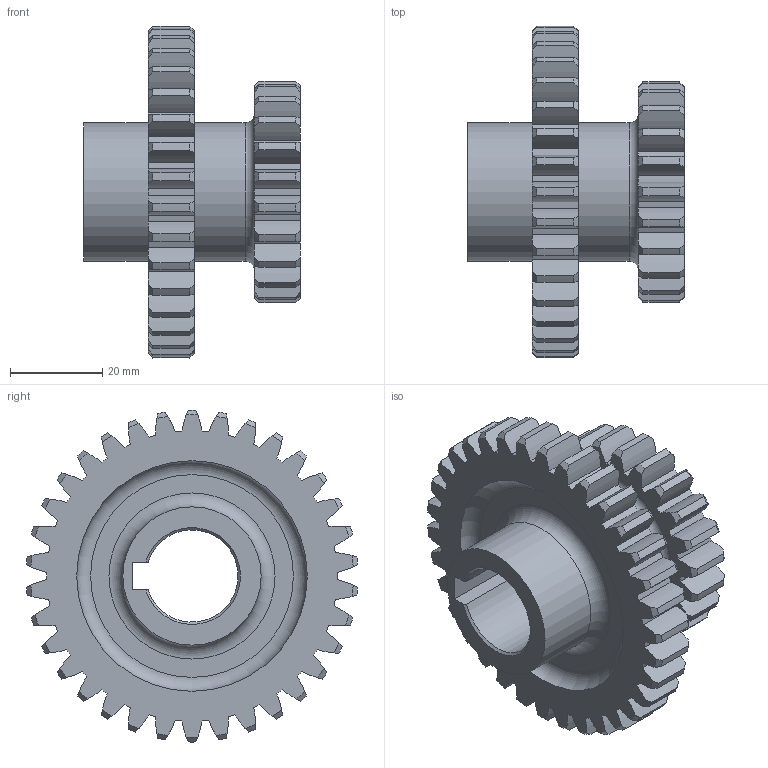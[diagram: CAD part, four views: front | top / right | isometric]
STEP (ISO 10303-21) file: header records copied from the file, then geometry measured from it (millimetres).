
FILE_DESCRIPTION(/* description */ (''),/* implementation_level */ '2;1');
FILE_NAME(/* name */ 'C:\Users\MYS\Desktop\답안\문영수-스퍼기어.stp',/* time_stamp */ '2018-10-01T07:33:11+09:00',/* author */ ('MYS'),/* organization */ (''),/* preprocessor_version */ 'ST-DEVELOPER v16.1',/* originating_system */ 'Autodesk Inventor 2016',/* authorisation */ '');
FILE_SCHEMA (('AUTOMOTIVE_DESIGN { 1 0 10303 214 3 1 1 }'));
Length unit declared in the file: millimetre
Products named in the file (1): 2단 스퍼기어
Bounding box: 47 x 71.83 x 72 mm (x, y, z)
Volume: 48025.3 mm3; surface area: 21575.4 mm2
Topology: 1 solids, 1 shells, 356 faces, 1046 edges, 697 vertices
Faces by surface type: cylinder 227, cone 114, plane 10, torus 5
Full cylindrical faces by diameter (mm): 30 x2
Entity records: 12352 total; most frequent: CARTESIAN_POINT 2769, DIRECTION 2098, ORIENTED_EDGE 2074, EDGE_CURVE 1037, AXIS2_PLACEMENT_3D 932, VERTEX_POINT 695, CIRCLE 575, EDGE_LOOP 370
